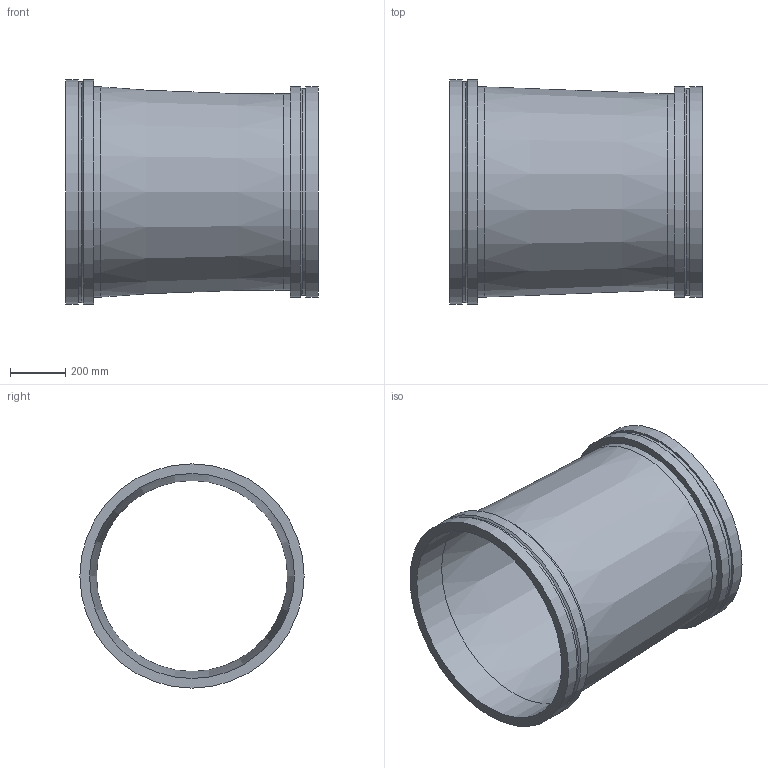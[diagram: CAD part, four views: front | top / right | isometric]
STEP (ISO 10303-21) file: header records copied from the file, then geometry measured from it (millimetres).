
FILE_DESCRIPTION(/* description */ ('VIC REDUCER CONCENTRIC No W50 VR','CAx-IF Rec.Pracs.---Representation and Presentation of Product Manufacturing Information (PMI)---4.0---2014-10-13'),/* implementation_level */ '2;1');
FILE_NAME(/* name */ 'C:\Users\kkamble\AppData\Roaming\Autodesk\ApplicationPlugins\Back Up\Victaulic_Vic-Ring_Reducer Concentric_No W50 VR (AGR)\Victaulic_Vic-Ring_Reducer Concentric_No W50 VR (AGR)_30.0x28.0 (750x700).stp',/* time_stamp */ '2020-09-10T11:46:37+05:00',/* author */ ('cps_temp'),/* organization */ ('Victaulic'),/* preprocessor_version */ 'ST-DEVELOPER v17.2',/* originating_system */ 'Autodesk Inventor 2019',/* authorisation */ '');
FILE_SCHEMA (('AP242_MANAGED_MODEL_BASED_3D_ENGINEERING_MIM_LF { 1 0 10303 442 1 1 4 }'));
Length unit declared in the file: inch
Products named in the file (1): W50 VR-30.0x28.0
Bounding box: 914.4 x 812.8 x 812.8 mm (x, y, z)
Volume: 31659621.2 mm3; surface area: 4549208.7 mm2
Topology: 1 solids, 1 shells, 20 faces, 54 edges, 40 vertices
Faces by surface type: cylinder 10, plane 6, cone 4
Full cylindrical faces by diameter (mm): 692.15 x1, 711.2 x1, 742.95 x1, 747.522 x1, 762 x3, 798.322 x1, 812.8 x2
Entity records: 830 total; most frequent: DIRECTION 162, CARTESIAN_POINT 132, ORIENTED_EDGE 108, AXIS2_PLACEMENT_3D 74, EDGE_CURVE 54, CIRCLE 40, VERTEX_POINT 40, EDGE_LOOP 26
